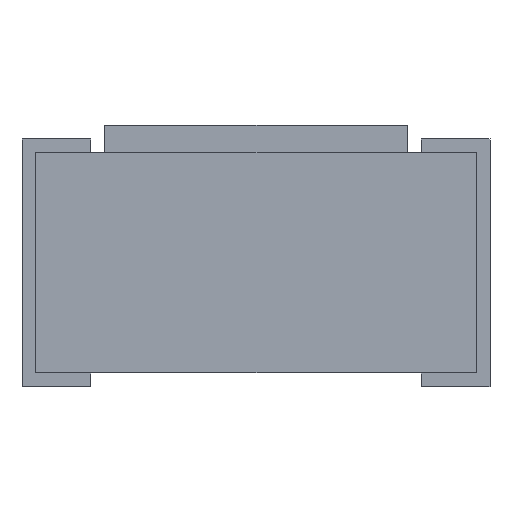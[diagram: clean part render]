
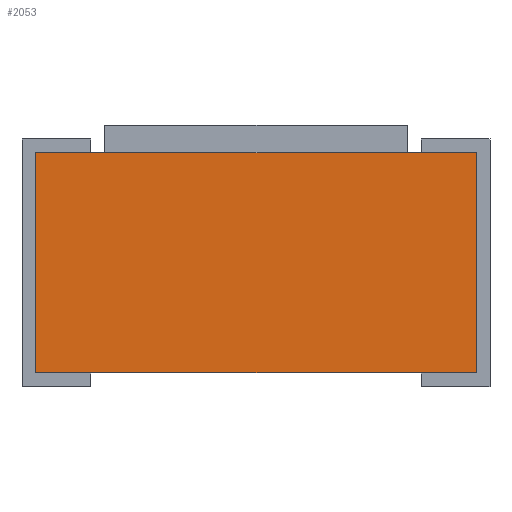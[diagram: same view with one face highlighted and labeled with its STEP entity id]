
A CAD part, left-side view. The second image highlights one B-rep face of the part: STEP entity #2053.
In plain terms, the highlighted planar face has unit normal (-1, 0, 0).
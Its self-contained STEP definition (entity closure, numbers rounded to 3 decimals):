
#1992 = CARTESIAN_POINT ( 'NONE',  ( -1.6, 0.8, 0.05 ) ) ;
#1993 = VERTEX_POINT ( 'NONE', #1992 ) ;
#2000 = CARTESIAN_POINT ( 'NONE',  ( -1.6, 0.8, 0.85 ) ) ;
#2001 = VERTEX_POINT ( 'NONE', #2000 ) ;
#2002 = CARTESIAN_POINT ( 'NONE',  ( -1.6, 0.8, 0.85 ) ) ;
#2003 = DIRECTION ( 'NONE',  ( 0., 0., -1. ) ) ;
#2004 = VECTOR ( 'NONE', #2003, 1000. ) ;
#2005 = LINE ( 'NONE', #2002, #2004 ) ;
#2006 = EDGE_CURVE ( 'NONE', #2001, #1993, #2005, .T. ) ;
#2023 = CARTESIAN_POINT ( 'NONE',  ( -1.6, -0.8, 0.05 ) ) ;
#2024 = VERTEX_POINT ( 'NONE', #2023 ) ;
#2025 = CARTESIAN_POINT ( 'NONE',  ( -1.6, -0.8, 0.05 ) ) ;
#2026 = DIRECTION ( 'NONE',  ( 0., -1., 0. ) ) ;
#2027 = VECTOR ( 'NONE', #2026, 1000. ) ;
#2028 = LINE ( 'NONE', #2025, #2027 ) ;
#2029 = EDGE_CURVE ( 'NONE', #1993, #2024, #2028, .T. ) ;
#2030 = ORIENTED_EDGE ( 'NONE', *, *, #2029, .T. ) ;
#2031 = CARTESIAN_POINT ( 'NONE',  ( -1.6, -0.8, 0.85 ) ) ;
#2032 = VERTEX_POINT ( 'NONE', #2031 ) ;
#2033 = CARTESIAN_POINT ( 'NONE',  ( -1.6, -0.8, 0.85 ) ) ;
#2034 = DIRECTION ( 'NONE',  ( 0., 0., -1. ) ) ;
#2035 = VECTOR ( 'NONE', #2034, 1000. ) ;
#2036 = LINE ( 'NONE', #2033, #2035 ) ;
#2037 = EDGE_CURVE ( 'NONE', #2032, #2024, #2036, .T. ) ;
#2038 = ORIENTED_EDGE ( 'NONE', *, *, #2037, .F. ) ;
#2039 = CARTESIAN_POINT ( 'NONE',  ( -1.6, -0.8, 0.85 ) ) ;
#2040 = DIRECTION ( 'NONE',  ( 0., -1., 0. ) ) ;
#2041 = VECTOR ( 'NONE', #2040, 1000. ) ;
#2042 = LINE ( 'NONE', #2039, #2041 ) ;
#2043 = EDGE_CURVE ( 'NONE', #2001, #2032, #2042, .T. ) ;
#2044 = ORIENTED_EDGE ( 'NONE', *, *, #2043, .F. ) ;
#2045 = ORIENTED_EDGE ( 'NONE', *, *, #2006, .T. ) ;
#2046 = EDGE_LOOP ( 'NONE', ( #2030, #2038, #2044, #2045 ) ) ;
#2047 = FACE_OUTER_BOUND ( 'NONE', #2046, .T. ) ;
#2048 = CARTESIAN_POINT ( 'NONE',  ( -1.6, -0.8, 0.85 ) ) ;
#2049 = DIRECTION ( 'NONE',  ( 1., 0., 0. ) ) ;
#2050 = DIRECTION ( 'NONE',  ( 0., 1., 0. ) ) ;
#2051 = AXIS2_PLACEMENT_3D ( 'NONE', #2048, #2049, #2050 ) ;
#2052 = PLANE ( 'NONE', #2051 ) ;
#2053 = ADVANCED_FACE ( 'NONE', ( #2047 ), #2052, .F. ) ;
